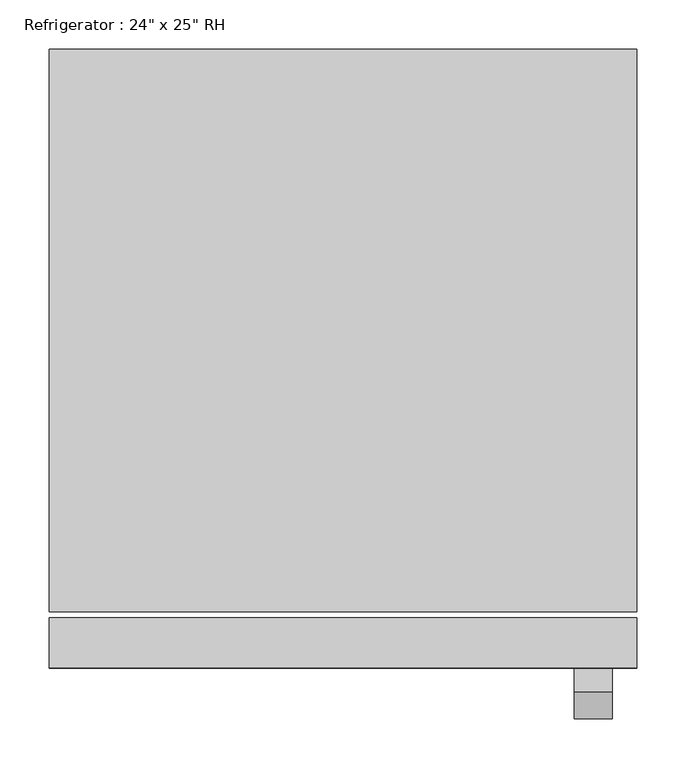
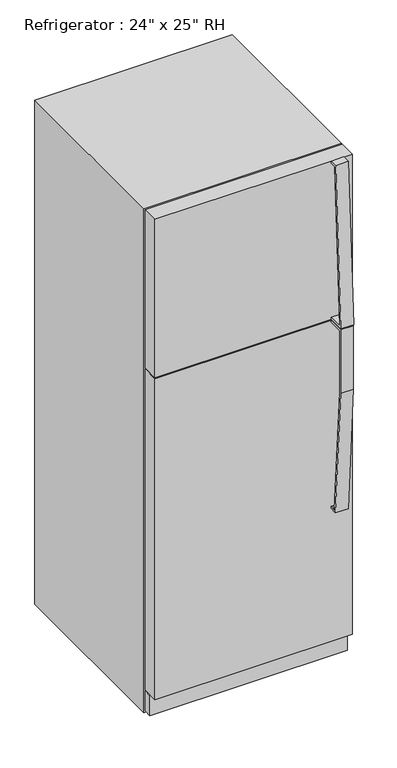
"""IFC4 building model written with IfcOpenShell, lengths in millimetres: proxy geometry."""

from ifc_helpers import new_model, si_unit, frame, origin, origin_with_axes, place, context, project, spatial, polyline, outline, extrude, source, transform, mapped, element, save


def proxy_66164f77(model_context):
    return source(origin(), model_context, "Body", "SweptSolid", [
        extrude(outline(polyline([(-329.0010285, 1096.9625), (-373.4510285, 1096.9625), (-373.4510285, 900.3342469), (-345.9723987, 507.3715334), (-329.0010285, 507.3715334), (-329.0010285, 501.0370017), (-351.8949512, 501.0370017), (-379.8010285, 900.1125), (-379.8010285, 1103.3125), (-329.0010285, 1103.3125), (-329.0010285, 1096.9625)])), frame((234.95, 0.0, 0.0), z_axis=(1.0, 0.0, 0.0), x_axis=(0.0, 1.0, 0.0)), (0.0, 0.0, 1.0), 38.4332978),
        extrude(outline(polyline([(-353.839413, 1612.9), (-329.7780855, 1612.9), (-329.7780855, 1606.55), (-348.6263449, 1606.55), (-374.5007207, 1112.8375), (-329.7780855, 1112.8375), (-329.7780855, 1106.4875), (-380.3793675, 1106.4875), (-353.839413, 1612.9)])), frame((234.95, 0.0, 0.0), z_axis=(1.0, 0.0, 0.0), x_axis=(0.0, 1.0, 0.0)), (0.0, 0.0, 1.0), 38.4332978),
        extrude(outline(polyline([(298.45, -278.2010285), (298.45, -303.6010285), (-298.45, -303.6010285), (-298.45, -278.2010285), (298.45, -278.2010285)])), frame((0.0, 0.0, 9.3816357), z_axis=(0.0, 0.0, 1.0), x_axis=(1.0, 0.0, 0.0)), (0.0, 0.0, 1.0), 63.5),
        extrude(outline(polyline([(298.45, -278.2010285), (298.45, -329.0010285), (-298.45, -329.0010285), (-298.45, -278.2010285), (298.45, -278.2010285)])), frame((0.0, 0.0, 76.2), z_axis=(0.0, 0.0, 1.0), x_axis=(1.0, 0.0, 0.0)), (0.0, 0.0, 1.0), 1027.1125),
        extrude(outline(polyline([(298.45, -278.2010285), (298.45, -329.0010285), (-298.45, -329.0010285), (-298.45, -278.2010285), (298.45, -278.2010285)])), frame((0.0, 0.0, 1106.4875), z_axis=(0.0, 0.0, 1.0), x_axis=(1.0, 0.0, 0.0)), (0.0, 0.0, 1.0), 506.4125),
        extrude(outline(polyline([(298.45, 299.6489715), (298.45, -271.8510285), (-298.45, -271.8510285), (-298.45, 299.6489715), (298.45, 299.6489715)])), origin_with_axes(), (0.0, 0.0, 1.0), 1612.9),
    ])


if __name__ == "__main__":
    model = new_model("IFC4")
    model_context = context("Model", 3, world=origin())
    ifc_project = project(units=[si_unit("LENGTHUNIT", "METRE", prefix="MILLI")], contexts=[model_context])
    site = spatial("IfcSite", under=ifc_project)
    building = spatial("IfcBuilding", under=site)
    placement = place(None, origin())
    proxy_shape = proxy_66164f77(model_context)
    element("IfcBuildingElementProxy", 1, Name="Refrigerator : 24\" x 25\" RH", ObjectType="Refrigerator : 24\" x 25\" RH", at=placement, inside=building, context=model_context, shape_type="MappedRepresentation", body=[
        mapped(proxy_shape, transform((0.0, 0.0, 0.0), x_axis=(1.0, 0.0, 0.0), y_axis=(0.0, 1.0, 0.0), z_axis=(0.0, 0.0, 1.0))),
    ])
    save(model, "model.ifc")
